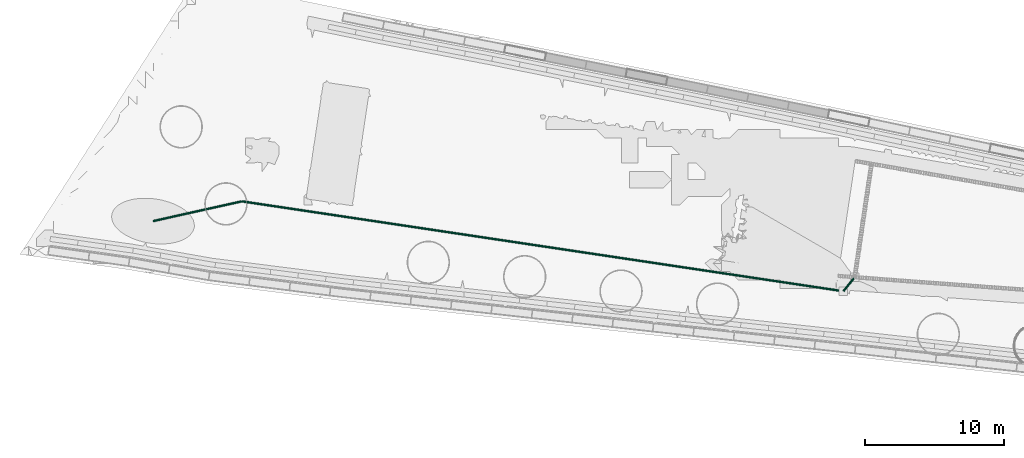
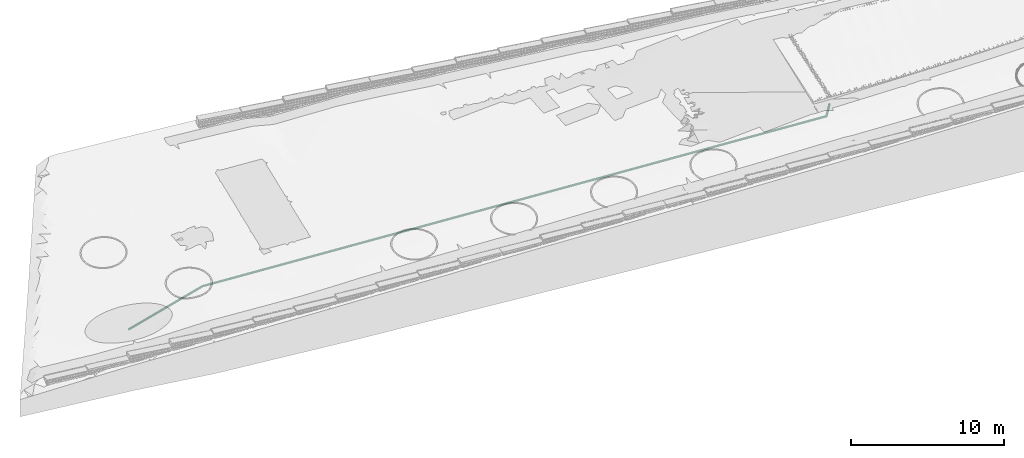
# Not in any storey, part 11 of 33: 3 pipe segments.
"""IFC4 model written with IfcOpenShell, lengths in metres."""

from ifc_helpers import new_model, si_unit, direction, frame, origin_with_axes, place, context, subcontext, project, spatial, circle, extrude, material, material_profile, profile_set, profile_usage, type_object, element, save


model = new_model("IFC4")

# Units and contexts
model_context = context("Model", 3, precision=1e-05, world=origin_with_axes(), true_north=direction((0.0, 1.0)))
body_context = subcontext(model_context, "Body", "Model", "MODEL_VIEW")
ifc_project = project(units=[si_unit("LENGTHUNIT", "METRE"), si_unit("AREAUNIT", "SQUARE_METRE"), si_unit("VOLUMEUNIT", "CUBIC_METRE")], contexts=[model_context])

# Site
site_placement = place(None, origin_with_axes())
site = spatial("IfcSite", under=ifc_project, at=site_placement, Name="Lares · Rua das Mercês · artigo 4771")

# Pipe segments
ifc_material = material(Name="Caleiras · betão", Category="concrete")
ifc_material_profile = material_profile(ifc_material, circle(Radius=0.08))
ifc_profile_set = profile_set([ifc_material_profile], Name="D0.16")
ifc_profile_usage_1 = profile_usage(ifc_profile_set)
pipe_segment_type = type_object("IfcPipeSegmentType", Name="D0.16 / drain", PredefinedType="NOTDEFINED", material=ifc_profile_set)
pipe_segment_1_placement = place(site_placement, frame((47.8613163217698, 3.24236823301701, 13.8860142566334), z_axis=(-0.625775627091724, -0.778214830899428, -0.0527877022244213), x_axis=(-0.779301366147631, 0.626649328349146, 0.0)))
element("IfcPipeSegment", 1, at=pipe_segment_1_placement, inside=site, type_object=pipe_segment_type, material=ifc_profile_usage_1, Name="Acesso · coletor separado da cisterna", context=body_context, shape_type="SweptSolid", body=[
    extrude(circle(Radius=0.08), origin_with_axes(), (0.0, 0.0, 1.0), 1.29965263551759),
])
ifc_profile_usage_2 = profile_usage(ifc_profile_set)
pipe_segment_2_placement = place(site_placement, frame((47.0480253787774, 2.23095927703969, 13.8174085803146), z_axis=(-0.98763693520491, 0.147603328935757, -0.0527877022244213), x_axis=(0.147809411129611, 0.989015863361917, 0.0)))
element("IfcPipeSegment", 2, at=pipe_segment_2_placement, inside=site, type_object=pipe_segment_type, material=ifc_profile_usage_2, Name="Acesso · coletor separado da cisterna", context=body_context, shape_type="SweptSolid", body=[
    extrude(circle(Radius=0.08), origin_with_axes(), (0.0, 0.0, 1.0), 43.7610134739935),
])
ifc_profile_usage_3 = profile_usage(ifc_profile_set)
pipe_segment_3_placement = place(site_placement, frame((3.82803214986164, 8.69023054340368, 11.5073652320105), z_axis=(-0.974673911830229, -0.217311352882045, -0.0527877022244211), x_axis=(-0.217614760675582, 0.976034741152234, 0.0)))
element("IfcPipeSegment", 3, at=pipe_segment_3_placement, inside=site, type_object=pipe_segment_type, material=ifc_profile_usage_3, Name="Acesso · coletor separado da cisterna", context=body_context, shape_type="SweptSolid", body=[
    extrude(circle(Radius=0.08), origin_with_axes(), (0.0, 0.0, 1.0), 6.54613692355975),
])

save(model, "model.ifc")
